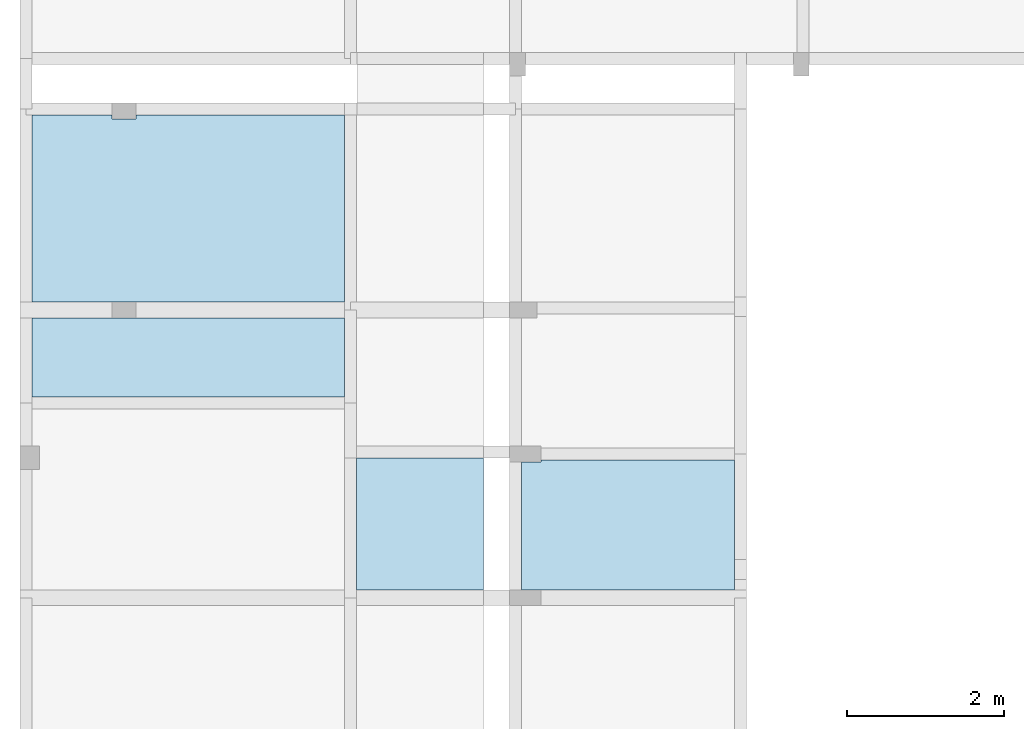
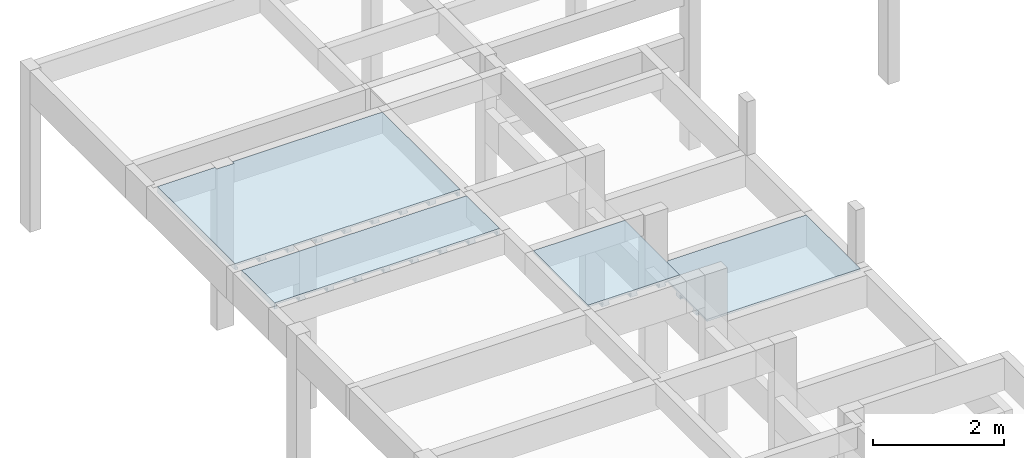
# One storey, part 12 of 21: 4 slabs.
"""IFC4 building model written with IfcOpenShell, lengths in centimetres."""

from ifc_helpers import new_model, si_unit, derived_unit, frame, origin_with_axes, place, context, project, spatial, polyline, outline, extrude, faceted_brep, material, element, save


model = new_model("IFC4")

# Units and contexts
model_context = context("Model", 3, precision=1e-05, world=origin_with_axes(), identifier="Body")
ifc_project = project(units=[si_unit("LENGTHUNIT", "METRE", prefix="CENTI"), si_unit("VOLUMEUNIT", "CUBIC_METRE"), si_unit("AREAUNIT", "SQUARE_METRE"), si_unit("POWERUNIT", "WATT"), si_unit("LUMINOUSFLUXUNIT", "LUMEN"), si_unit("ELECTRICCURRENTUNIT", "AMPERE"), si_unit("PRESSUREUNIT", "PASCAL", prefix="KILO"), si_unit("MASSUNIT", "GRAM", prefix="KILO"), si_unit("PLANEANGLEUNIT", "RADIAN"), derived_unit("VOLUMETRICFLOWRATEUNIT", [(si_unit("LENGTHUNIT", "METRE"), 3), (si_unit("TIMEUNIT", "SECOND"), -1)])], contexts=[model_context])

# Site, building, storey
site_placement = place(None, origin_with_axes())
site = spatial("IfcSite", under=ifc_project, at=site_placement)
building_placement = place(site_placement, frame((0.0, 0.0, -295.0)))
building = spatial("IfcBuilding", under=site, at=building_placement)
placement_1 = place(building_placement, origin_with_axes())
placement_2 = place(placement_1, frame((0.0, 0.0, 101.0), z_axis=(0.0, 0.0, 1.0), x_axis=(1.0, 0.0, 0.0)))
placement_3 = place(placement_2, frame((0.0, 0.0, 204.0), z_axis=(0.0, 0.0, 1.0), x_axis=(1.0, 0.0, 0.0)))
placement_4 = place(placement_3, frame((0.0, 0.0, 292.0), z_axis=(0.0, 0.0, 1.0), x_axis=(1.0, 0.0, 0.0)))
storey_placement = place(placement_4, frame((0.0, 0.0, 302.0), z_axis=(0.0, 0.0, 1.0), x_axis=(1.0, 0.0, 0.0)))
storey = spatial("IfcBuildingStorey", under=building, at=storey_placement, Name="PAVTO 02", CompositionType="ELEMENT", Elevation=604.0)

# Slabs
ifc_material = material(Name="Concreto")
slab_1_placement = place(storey_placement, frame((765.4, -5618.0, 0.0), z_axis=(0.0, 0.0, 1.0), x_axis=(1.0, 0.0, 0.0)))
element("IfcSlab", 1, at=slab_1_placement, inside=storey, material=ifc_material, Name="L213", PredefinedType="FLOOR", context=model_context, shape_type="SolidModel", body=[
    extrude(outline(polyline([(198.669, 118.84), (-66.469, 118.84), (-66.47, 113.84), (-96.47, 113.84), (-96.469, 118.839), (-198.67, 118.84), (-198.669, -118.839), (198.67, -118.84), (198.669, 118.84), (198.669, 118.84)])), frame((0.0, 0.0, -4.0), z_axis=(0.0, 0.0, 1.0), x_axis=(1.0, 0.0, 0.0)), (0.0, 0.0, 1.0), 4.0),
    faceted_brep([(-5.0, -118.83950461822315, -12.0), (-5.0, 118.83999538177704, -12.0), (5.0, 118.83999538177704, -12.0), (5.0, -118.83950461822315, -12.0), (5.0, -118.83950461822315, -4.0), (5.0, 118.83999538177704, -4.0), (-5.0, 118.83999538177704, -4.0), (-5.0, -118.83950461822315, -4.0)], [[[0, 1, 2, 3]], [[4, 5, 6, 7]], [[4, 3, 5]], [[3, 2, 5]], [[5, 2, 6]], [[2, 1, 6]], [[6, 1, 7]], [[1, 0, 7]], [[7, 0, 4]], [[0, 3, 4]]]),
    faceted_brep([(-6.5, -118.83950461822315, -12.0), (-6.5, 118.83999538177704, -12.0), (-5.0, 118.83999538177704, -12.0), (-5.0, -118.83950461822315, -12.0), (-5.0, -118.83950461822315, -9.0), (-5.0, 118.83999538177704, -9.0), (-6.5, 118.83999538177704, -9.0), (-6.5, -118.83950461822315, -9.0)], [[[0, 1, 2, 3]], [[4, 5, 6, 7]], [[4, 3, 5]], [[3, 2, 5]], [[5, 2, 6]], [[2, 1, 6]], [[6, 1, 7]], [[1, 0, 7]], [[7, 0, 4]], [[0, 3, 4]]]),
    faceted_brep([(5.0, -118.83950461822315, -12.0), (5.0, 118.83999538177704, -12.0), (6.5, 118.83999538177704, -12.0), (6.5, -118.83950461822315, -12.0), (6.5, -118.83950461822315, -9.0), (6.5, 118.83999538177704, -9.0), (5.0, 118.83999538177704, -9.0), (5.0, -118.83950461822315, -9.0)], [[[0, 1, 2, 3]], [[4, 5, 6, 7]], [[4, 3, 5]], [[3, 2, 5]], [[5, 2, 6]], [[2, 1, 6]], [[6, 1, 7]], [[1, 0, 7]], [[7, 0, 4]], [[0, 3, 4]]]),
    faceted_brep([(-55.0, -118.83950461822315, -12.0), (-55.0, 118.83999538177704, -12.0), (-45.0, 118.83999538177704, -12.0), (-45.0, -118.83950461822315, -12.0), (-45.0, -118.83950461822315, -4.0), (-45.0, 118.83999538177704, -4.0), (-55.0, 118.83999538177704, -4.0), (-55.0, -118.83950461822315, -4.0)], [[[0, 1, 2, 3]], [[4, 5, 6, 7]], [[4, 3, 5]], [[3, 2, 5]], [[5, 2, 6]], [[2, 1, 6]], [[6, 1, 7]], [[1, 0, 7]], [[7, 0, 4]], [[0, 3, 4]]]),
    faceted_brep([(-56.5, -118.83950461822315, -12.0), (-56.5, 118.83999538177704, -12.0), (-55.0, 118.83999538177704, -12.0), (-55.0, -118.83950461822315, -12.0), (-55.0, -118.83950461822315, -9.0), (-55.0, 118.83999538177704, -9.0), (-56.5, 118.83999538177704, -9.0), (-56.5, -118.83950461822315, -9.0)], [[[0, 1, 2, 3]], [[4, 5, 6, 7]], [[4, 3, 5]], [[3, 2, 5]], [[5, 2, 6]], [[2, 1, 6]], [[6, 1, 7]], [[1, 0, 7]], [[7, 0, 4]], [[0, 3, 4]]]),
    faceted_brep([(-45.0, -118.83950461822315, -12.0), (-45.0, 118.83999538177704, -12.0), (-43.5, 118.83999538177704, -12.0), (-43.5, -118.83950461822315, -12.0), (-43.5, -118.83950461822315, -9.0), (-43.5, 118.83999538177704, -9.0), (-45.0, 118.83999538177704, -9.0), (-45.0, -118.83950461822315, -9.0)], [[[0, 1, 2, 3]], [[4, 5, 6, 7]], [[4, 3, 5]], [[3, 2, 5]], [[5, 2, 6]], [[2, 1, 6]], [[6, 1, 7]], [[1, 0, 7]], [[7, 0, 4]], [[0, 3, 4]]]),
    faceted_brep([(-105.0, -118.83950461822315, -12.0), (-105.0, 118.83949538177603, -12.0), (-95.0, 113.83999538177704, -12.0), (-95.0, -118.83950461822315, -12.0), (-95.0, -118.83950461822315, -4.0), (-95.0, 113.83999538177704, -4.0), (-105.0, 118.83949538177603, -4.0), (-105.0, -118.83950461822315, -4.0)], [[[0, 1, 2, 3]], [[4, 5, 6, 7]], [[4, 3, 5]], [[3, 2, 5]], [[5, 2, 6]], [[2, 1, 6]], [[6, 1, 7]], [[1, 0, 7]], [[7, 0, 4]], [[0, 3, 4]]]),
    faceted_brep([(-106.5, -118.83950461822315, -12.0), (-106.5, 118.83949538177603, -12.0), (-105.0, 118.83949538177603, -12.0), (-105.0, -118.83950461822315, -12.0), (-105.0, -118.83950461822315, -9.0), (-105.0, 118.83949538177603, -9.0), (-106.5, 118.83949538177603, -9.0), (-106.5, -118.83950461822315, -9.0)], [[[0, 1, 2, 3]], [[4, 5, 6, 7]], [[4, 3, 5]], [[3, 2, 5]], [[5, 2, 6]], [[2, 1, 6]], [[6, 1, 7]], [[1, 0, 7]], [[7, 0, 4]], [[0, 3, 4]]]),
    faceted_brep([(-95.0, -118.83950461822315, -12.0), (-95.0, 113.83999538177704, -12.0), (-93.5, 113.83999538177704, -12.0), (-93.5, -118.83950461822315, -12.0), (-93.5, -118.83950461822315, -9.0), (-93.5, 113.83999538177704, -9.0), (-95.0, 113.83999538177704, -9.0), (-95.0, -118.83950461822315, -9.0)], [[[0, 1, 2, 3]], [[4, 5, 6, 7]], [[4, 3, 5]], [[3, 2, 5]], [[5, 2, 6]], [[2, 1, 6]], [[6, 1, 7]], [[1, 0, 7]], [[7, 0, 4]], [[0, 3, 4]]]),
    faceted_brep([(-155.0, -118.83950461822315, -12.0), (-155.0, 118.83949538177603, -12.0), (-145.0, 118.83949538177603, -12.0), (-145.0, -118.83950461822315, -12.0), (-145.0, -118.83950461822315, -4.0), (-145.0, 118.83949538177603, -4.0), (-155.0, 118.83949538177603, -4.0), (-155.0, -118.83950461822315, -4.0)], [[[0, 1, 2, 3]], [[4, 5, 6, 7]], [[4, 3, 5]], [[3, 2, 5]], [[5, 2, 6]], [[2, 1, 6]], [[6, 1, 7]], [[1, 0, 7]], [[7, 0, 4]], [[0, 3, 4]]]),
    faceted_brep([(-156.5, -118.83950461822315, -12.0), (-156.5, 118.83949538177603, -12.0), (-155.0, 118.83949538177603, -12.0), (-155.0, -118.83950461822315, -12.0), (-155.0, -118.83950461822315, -9.0), (-155.0, 118.83949538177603, -9.0), (-156.5, 118.83949538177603, -9.0), (-156.5, -118.83950461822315, -9.0)], [[[0, 1, 2, 3]], [[4, 5, 6, 7]], [[4, 3, 5]], [[3, 2, 5]], [[5, 2, 6]], [[2, 1, 6]], [[6, 1, 7]], [[1, 0, 7]], [[7, 0, 4]], [[0, 3, 4]]]),
    faceted_brep([(-145.0, -118.83950461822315, -12.0), (-145.0, 118.83949538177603, -12.0), (-143.5, 118.83949538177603, -12.0), (-143.5, -118.83950461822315, -12.0), (-143.5, -118.83950461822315, -9.0), (-143.5, 118.83949538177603, -9.0), (-145.0, 118.83949538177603, -9.0), (-145.0, -118.83950461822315, -9.0)], [[[0, 1, 2, 3]], [[4, 5, 6, 7]], [[4, 3, 5]], [[3, 2, 5]], [[5, 2, 6]], [[2, 1, 6]], [[6, 1, 7]], [[1, 0, 7]], [[7, 0, 4]], [[0, 3, 4]]]),
    faceted_brep([(-198.6695, -118.83901385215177, -12.0), (-198.6695, 118.83995947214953, -12.0), (-195.0, 118.83949538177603, -12.0), (-195.0, -118.83950461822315, -12.0), (-195.0, -118.83950461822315, -4.0), (-195.0, 118.83949538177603, -4.0), (-198.6695, 118.83995947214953, -4.0), (-198.6695, -118.83901385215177, -4.0)], [[[0, 1, 2, 3]], [[4, 5, 6, 7]], [[4, 3, 5]], [[3, 2, 5]], [[5, 2, 6]], [[2, 1, 6]], [[6, 1, 7]], [[1, 0, 7]], [[7, 0, 4]], [[0, 3, 4]]]),
    faceted_brep([(-195.0, -118.83950461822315, -12.0), (-195.0, 118.83949538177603, -12.0), (-193.5, 118.83949538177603, -12.0), (-193.5, -118.83950461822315, -12.0), (-193.5, -118.83950461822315, -9.0), (-193.5, 118.83949538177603, -9.0), (-195.0, 118.83949538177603, -9.0), (-195.0, -118.83950461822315, -9.0)], [[[0, 1, 2, 3]], [[4, 5, 6, 7]], [[4, 3, 5]], [[3, 2, 5]], [[5, 2, 6]], [[2, 1, 6]], [[6, 1, 7]], [[1, 0, 7]], [[7, 0, 4]], [[0, 3, 4]]]),
    faceted_brep([(45.0, -118.83950461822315, -12.0), (45.0, 118.83999538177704, -12.0), (55.0, 118.83999538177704, -12.0), (55.0, -118.83950461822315, -12.0), (55.0, -118.83950461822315, -4.0), (55.0, 118.83999538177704, -4.0), (45.0, 118.83999538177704, -4.0), (45.0, -118.83950461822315, -4.0)], [[[0, 1, 2, 3]], [[4, 5, 6, 7]], [[4, 3, 5]], [[3, 2, 5]], [[5, 2, 6]], [[2, 1, 6]], [[6, 1, 7]], [[1, 0, 7]], [[7, 0, 4]], [[0, 3, 4]]]),
    faceted_brep([(43.5, -118.83950461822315, -12.0), (43.5, 118.83999538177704, -12.0), (45.0, 118.83999538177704, -12.0), (45.0, -118.83950461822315, -12.0), (45.0, -118.83950461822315, -9.0), (45.0, 118.83999538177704, -9.0), (43.5, 118.83999538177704, -9.0), (43.5, -118.83950461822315, -9.0)], [[[0, 1, 2, 3]], [[4, 5, 6, 7]], [[4, 3, 5]], [[3, 2, 5]], [[5, 2, 6]], [[2, 1, 6]], [[6, 1, 7]], [[1, 0, 7]], [[7, 0, 4]], [[0, 3, 4]]]),
    faceted_brep([(55.0, -118.83950461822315, -12.0), (55.0, 118.83999538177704, -12.0), (56.5, 118.83999538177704, -12.0), (56.5, -118.83950461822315, -12.0), (56.5, -118.83950461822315, -9.0), (56.5, 118.83999538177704, -9.0), (55.0, 118.83999538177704, -9.0), (55.0, -118.83950461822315, -9.0)], [[[0, 1, 2, 3]], [[4, 5, 6, 7]], [[4, 3, 5]], [[3, 2, 5]], [[5, 2, 6]], [[2, 1, 6]], [[6, 1, 7]], [[1, 0, 7]], [[7, 0, 4]], [[0, 3, 4]]]),
    faceted_brep([(95.0, -118.83950461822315, -12.0), (95.0, 118.83999538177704, -12.0), (105.0, 118.83999538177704, -12.0), (105.0, -118.83950461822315, -12.0), (105.0, -118.83950461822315, -4.0), (105.0, 118.83999538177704, -4.0), (95.0, 118.83999538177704, -4.0), (95.0, -118.83950461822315, -4.0)], [[[0, 1, 2, 3]], [[4, 5, 6, 7]], [[4, 3, 5]], [[3, 2, 5]], [[5, 2, 6]], [[2, 1, 6]], [[6, 1, 7]], [[1, 0, 7]], [[7, 0, 4]], [[0, 3, 4]]]),
    faceted_brep([(93.5, -118.83950461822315, -12.0), (93.5, 118.83999538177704, -12.0), (95.0, 118.83999538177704, -12.0), (95.0, -118.83950461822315, -12.0), (95.0, -118.83950461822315, -9.0), (95.0, 118.83999538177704, -9.0), (93.5, 118.83999538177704, -9.0), (93.5, -118.83950461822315, -9.0)], [[[0, 1, 2, 3]], [[4, 5, 6, 7]], [[4, 3, 5]], [[3, 2, 5]], [[5, 2, 6]], [[2, 1, 6]], [[6, 1, 7]], [[1, 0, 7]], [[7, 0, 4]], [[0, 3, 4]]]),
    faceted_brep([(105.0, -118.83950461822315, -12.0), (105.0, 118.83999538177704, -12.0), (106.5, 118.83999538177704, -12.0), (106.5, -118.83950461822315, -12.0), (106.5, -118.83950461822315, -9.0), (106.5, 118.83999538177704, -9.0), (105.0, 118.83999538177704, -9.0), (105.0, -118.83950461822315, -9.0)], [[[0, 1, 2, 3]], [[4, 5, 6, 7]], [[4, 3, 5]], [[3, 2, 5]], [[5, 2, 6]], [[2, 1, 6]], [[6, 1, 7]], [[1, 0, 7]], [[7, 0, 4]], [[0, 3, 4]]]),
    faceted_brep([(145.0, -118.83950461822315, -12.0), (145.0, 118.83999538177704, -12.0), (155.0, 118.83999538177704, -12.0), (155.0, -118.83950461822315, -12.0), (155.0, -118.83950461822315, -4.0), (155.0, 118.83999538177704, -4.0), (145.0, 118.83999538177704, -4.0), (145.0, -118.83950461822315, -4.0)], [[[0, 1, 2, 3]], [[4, 5, 6, 7]], [[4, 3, 5]], [[3, 2, 5]], [[5, 2, 6]], [[2, 1, 6]], [[6, 1, 7]], [[1, 0, 7]], [[7, 0, 4]], [[0, 3, 4]]]),
    faceted_brep([(143.5, -118.83950461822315, -12.0), (143.5, 118.83999538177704, -12.0), (145.0, 118.83999538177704, -12.0), (145.0, -118.83950461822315, -12.0), (145.0, -118.83950461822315, -9.0), (145.0, 118.83999538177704, -9.0), (143.5, 118.83999538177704, -9.0), (143.5, -118.83950461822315, -9.0)], [[[0, 1, 2, 3]], [[4, 5, 6, 7]], [[4, 3, 5]], [[3, 2, 5]], [[5, 2, 6]], [[2, 1, 6]], [[6, 1, 7]], [[1, 0, 7]], [[7, 0, 4]], [[0, 3, 4]]]),
    faceted_brep([(155.0, -118.83950461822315, -12.0), (155.0, 118.83999538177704, -12.0), (156.5, 118.83999538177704, -12.0), (156.5, -118.83950461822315, -12.0), (156.5, -118.83950461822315, -9.0), (156.5, 118.83999538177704, -9.0), (155.0, 118.83999538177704, -9.0), (155.0, -118.83950461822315, -9.0)], [[[0, 1, 2, 3]], [[4, 5, 6, 7]], [[4, 3, 5]], [[3, 2, 5]], [[5, 2, 6]], [[2, 1, 6]], [[6, 1, 7]], [[1, 0, 7]], [[7, 0, 4]], [[0, 3, 4]]]),
    faceted_brep([(195.0, -118.83950461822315, -12.0), (195.0, 118.83999538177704, -12.0), (198.6695, 118.83999538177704, -12.0), (198.6695, -118.83999538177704, -12.0), (198.6695, -118.83999538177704, -4.0), (198.6695, 118.83999538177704, -4.0), (195.0, 118.83999538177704, -4.0), (195.0, -118.83950461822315, -4.0)], [[[0, 1, 2, 3]], [[4, 5, 6, 7]], [[4, 3, 5]], [[3, 2, 5]], [[5, 2, 6]], [[2, 1, 6]], [[6, 1, 7]], [[1, 0, 7]], [[7, 0, 4]], [[0, 3, 4]]]),
    faceted_brep([(193.5, -118.83950461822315, -12.0), (193.5, 118.83999538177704, -12.0), (195.0, 118.83999538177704, -12.0), (195.0, -118.83950461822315, -12.0), (195.0, -118.83950461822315, -9.0), (195.0, 118.83999538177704, -9.0), (193.5, 118.83999538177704, -9.0), (193.5, -118.83950461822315, -9.0)], [[[0, 1, 2, 3]], [[4, 5, 6, 7]], [[4, 3, 5]], [[3, 2, 5]], [[5, 2, 6]], [[2, 1, 6]], [[6, 1, 7]], [[1, 0, 7]], [[7, 0, 4]], [[0, 3, 4]]]),
])
slab_2_placement = place(storey_placement, frame((765.4, -5807.194504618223, 0.0), z_axis=(0.0, 0.0, 1.0), x_axis=(1.0, 0.0, 0.0)))
element("IfcSlab", 2, at=slab_2_placement, inside=storey, material=ifc_material, Name="L217", PredefinedType="FLOOR", context=model_context, shape_type="SolidModel", body=[
    extrude(outline(polyline([(198.67, 50.355), (-198.669, 50.354), (-198.67, -50.354), (198.67, -50.354), (198.67, 50.355), (198.67, 50.355)])), frame((0.0, -0.000495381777, -4.0), z_axis=(0.0, 0.0, 1.0), x_axis=(1.0, 0.0, 0.0)), (0.0, 0.0, 1.0), 4.0),
    faceted_brep([(-5.0, -50.35449538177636, -12.0), (-5.0, 50.35400461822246, -12.0), (5.0, 50.35400461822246, -12.0), (5.0, -50.35449538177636, -12.0), (5.0, -50.35449538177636, -4.0), (5.0, 50.35400461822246, -4.0), (-5.0, 50.35400461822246, -4.0), (-5.0, -50.35449538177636, -4.0)], [[[0, 1, 2, 3]], [[4, 5, 6, 7]], [[4, 3, 5]], [[3, 2, 5]], [[5, 2, 6]], [[2, 1, 6]], [[6, 1, 7]], [[1, 0, 7]], [[7, 0, 4]], [[0, 3, 4]]]),
    faceted_brep([(-6.5, -50.35449538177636, -12.0), (-6.5, 50.35400461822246, -12.0), (-5.0, 50.35400461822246, -12.0), (-5.0, -50.35449538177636, -12.0), (-5.0, -50.35449538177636, -9.0), (-5.0, 50.35400461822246, -9.0), (-6.5, 50.35400461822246, -9.0), (-6.5, -50.35449538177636, -9.0)], [[[0, 1, 2, 3]], [[4, 5, 6, 7]], [[4, 3, 5]], [[3, 2, 5]], [[5, 2, 6]], [[2, 1, 6]], [[6, 1, 7]], [[1, 0, 7]], [[7, 0, 4]], [[0, 3, 4]]]),
    faceted_brep([(5.0, -50.35449538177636, -12.0), (5.0, 50.35400461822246, -12.0), (6.5, 50.35400461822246, -12.0), (6.5, -50.35449538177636, -12.0), (6.5, -50.35449538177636, -9.0), (6.5, 50.35400461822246, -9.0), (5.0, 50.35400461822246, -9.0), (5.0, -50.35449538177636, -9.0)], [[[0, 1, 2, 3]], [[4, 5, 6, 7]], [[4, 3, 5]], [[3, 2, 5]], [[5, 2, 6]], [[2, 1, 6]], [[6, 1, 7]], [[1, 0, 7]], [[7, 0, 4]], [[0, 3, 4]]]),
    faceted_brep([(-55.0, -50.35449538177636, -12.0), (-55.0, 50.35400461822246, -12.0), (-45.0, 50.35400461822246, -12.0), (-45.0, -50.35449538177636, -12.0), (-45.0, -50.35449538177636, -4.0), (-45.0, 50.35400461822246, -4.0), (-55.0, 50.35400461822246, -4.0), (-55.0, -50.35449538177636, -4.0)], [[[0, 1, 2, 3]], [[4, 5, 6, 7]], [[4, 3, 5]], [[3, 2, 5]], [[5, 2, 6]], [[2, 1, 6]], [[6, 1, 7]], [[1, 0, 7]], [[7, 0, 4]], [[0, 3, 4]]]),
    faceted_brep([(-56.5, -50.35449538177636, -12.0), (-56.5, 50.35400461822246, -12.0), (-55.0, 50.35400461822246, -12.0), (-55.0, -50.35449538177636, -12.0), (-55.0, -50.35449538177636, -9.0), (-55.0, 50.35400461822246, -9.0), (-56.5, 50.35400461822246, -9.0), (-56.5, -50.35449538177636, -9.0)], [[[0, 1, 2, 3]], [[4, 5, 6, 7]], [[4, 3, 5]], [[3, 2, 5]], [[5, 2, 6]], [[2, 1, 6]], [[6, 1, 7]], [[1, 0, 7]], [[7, 0, 4]], [[0, 3, 4]]]),
    faceted_brep([(-45.0, -50.35449538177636, -12.0), (-45.0, 50.35400461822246, -12.0), (-43.5, 50.35400461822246, -12.0), (-43.5, -50.35449538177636, -12.0), (-43.5, -50.35449538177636, -9.0), (-43.5, 50.35400461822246, -9.0), (-45.0, 50.35400461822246, -9.0), (-45.0, -50.35449538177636, -9.0)], [[[0, 1, 2, 3]], [[4, 5, 6, 7]], [[4, 3, 5]], [[3, 2, 5]], [[5, 2, 6]], [[2, 1, 6]], [[6, 1, 7]], [[1, 0, 7]], [[7, 0, 4]], [[0, 3, 4]]]),
    faceted_brep([(-105.0, -50.35449538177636, -12.0), (-105.0, 50.35400461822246, -12.0), (-95.0, 50.35400461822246, -12.0), (-95.0, -50.35449538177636, -12.0), (-95.0, -50.35449538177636, -4.0), (-95.0, 50.35400461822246, -4.0), (-105.0, 50.35400461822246, -4.0), (-105.0, -50.35449538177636, -4.0)], [[[0, 1, 2, 3]], [[4, 5, 6, 7]], [[4, 3, 5]], [[3, 2, 5]], [[5, 2, 6]], [[2, 1, 6]], [[6, 1, 7]], [[1, 0, 7]], [[7, 0, 4]], [[0, 3, 4]]]),
    faceted_brep([(-106.5, -50.35449538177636, -12.0), (-106.5, 50.35400461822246, -12.0), (-105.0, 50.35400461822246, -12.0), (-105.0, -50.35449538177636, -12.0), (-105.0, -50.35449538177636, -9.0), (-105.0, 50.35400461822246, -9.0), (-106.5, 50.35400461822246, -9.0), (-106.5, -50.35449538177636, -9.0)], [[[0, 1, 2, 3]], [[4, 5, 6, 7]], [[4, 3, 5]], [[3, 2, 5]], [[5, 2, 6]], [[2, 1, 6]], [[6, 1, 7]], [[1, 0, 7]], [[7, 0, 4]], [[0, 3, 4]]]),
    faceted_brep([(-95.0, -50.35449538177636, -12.0), (-95.0, 50.35400461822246, -12.0), (-93.5, 50.35400461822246, -12.0), (-93.5, -50.35449538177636, -12.0), (-93.5, -50.35449538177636, -9.0), (-93.5, 50.35400461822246, -9.0), (-95.0, 50.35400461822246, -9.0), (-95.0, -50.35449538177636, -9.0)], [[[0, 1, 2, 3]], [[4, 5, 6, 7]], [[4, 3, 5]], [[3, 2, 5]], [[5, 2, 6]], [[2, 1, 6]], [[6, 1, 7]], [[1, 0, 7]], [[7, 0, 4]], [[0, 3, 4]]]),
    faceted_brep([(-155.0, -50.35449538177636, -12.0), (-155.0, 50.35400461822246, -12.0), (-145.0, 50.35400461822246, -12.0), (-145.0, -50.35449538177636, -12.0), (-145.0, -50.35449538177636, -4.0), (-145.0, 50.35400461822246, -4.0), (-155.0, 50.35400461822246, -4.0), (-155.0, -50.35449538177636, -4.0)], [[[0, 1, 2, 3]], [[4, 5, 6, 7]], [[4, 3, 5]], [[3, 2, 5]], [[5, 2, 6]], [[2, 1, 6]], [[6, 1, 7]], [[1, 0, 7]], [[7, 0, 4]], [[0, 3, 4]]]),
    faceted_brep([(-156.5, -50.35449538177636, -12.0), (-156.5, 50.35400461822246, -12.0), (-155.0, 50.35400461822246, -12.0), (-155.0, -50.35449538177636, -12.0), (-155.0, -50.35449538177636, -9.0), (-155.0, 50.35400461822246, -9.0), (-156.5, 50.35400461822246, -9.0), (-156.5, -50.35449538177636, -9.0)], [[[0, 1, 2, 3]], [[4, 5, 6, 7]], [[4, 3, 5]], [[3, 2, 5]], [[5, 2, 6]], [[2, 1, 6]], [[6, 1, 7]], [[1, 0, 7]], [[7, 0, 4]], [[0, 3, 4]]]),
    faceted_brep([(-145.0, -50.35449538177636, -12.0), (-145.0, 50.35400461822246, -12.0), (-143.5, 50.35400461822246, -12.0), (-143.5, -50.35449538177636, -12.0), (-143.5, -50.35449538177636, -9.0), (-143.5, 50.35400461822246, -9.0), (-145.0, 50.35400461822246, -9.0), (-145.0, -50.35449538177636, -9.0)], [[[0, 1, 2, 3]], [[4, 5, 6, 7]], [[4, 3, 5]], [[3, 2, 5]], [[5, 2, 6]], [[2, 1, 6]], [[6, 1, 7]], [[1, 0, 7]], [[7, 0, 4]], [[0, 3, 4]]]),
    faceted_brep([(-198.6695, -50.35449538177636, -12.0), (-198.6695, 50.35351385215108, -12.0), (-195.0, 50.35400461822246, -12.0), (-195.0, -50.35449538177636, -12.0), (-195.0, -50.35449538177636, -4.0), (-195.0, 50.35400461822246, -4.0), (-198.6695, 50.35351385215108, -4.0), (-198.6695, -50.35449538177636, -4.0)], [[[0, 1, 2, 3]], [[4, 5, 6, 7]], [[4, 3, 5]], [[3, 2, 5]], [[5, 2, 6]], [[2, 1, 6]], [[6, 1, 7]], [[1, 0, 7]], [[7, 0, 4]], [[0, 3, 4]]]),
    faceted_brep([(-195.0, -50.35449538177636, -12.0), (-195.0, 50.35400461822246, -12.0), (-193.5, 50.35400461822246, -12.0), (-193.5, -50.35449538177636, -12.0), (-193.5, -50.35449538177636, -9.0), (-193.5, 50.35400461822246, -9.0), (-195.0, 50.35400461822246, -9.0), (-195.0, -50.35449538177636, -9.0)], [[[0, 1, 2, 3]], [[4, 5, 6, 7]], [[4, 3, 5]], [[3, 2, 5]], [[5, 2, 6]], [[2, 1, 6]], [[6, 1, 7]], [[1, 0, 7]], [[7, 0, 4]], [[0, 3, 4]]]),
    faceted_brep([(45.0, -50.35449538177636, -12.0), (45.0, 50.35400461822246, -12.0), (55.0, 50.35400461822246, -12.0), (55.0, -50.35449538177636, -12.0), (55.0, -50.35449538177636, -4.0), (55.0, 50.35400461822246, -4.0), (45.0, 50.35400461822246, -4.0), (45.0, -50.35449538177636, -4.0)], [[[0, 1, 2, 3]], [[4, 5, 6, 7]], [[4, 3, 5]], [[3, 2, 5]], [[5, 2, 6]], [[2, 1, 6]], [[6, 1, 7]], [[1, 0, 7]], [[7, 0, 4]], [[0, 3, 4]]]),
    faceted_brep([(43.5, -50.35449538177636, -12.0), (43.5, 50.35400461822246, -12.0), (45.0, 50.35400461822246, -12.0), (45.0, -50.35449538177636, -12.0), (45.0, -50.35449538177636, -9.0), (45.0, 50.35400461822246, -9.0), (43.5, 50.35400461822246, -9.0), (43.5, -50.35449538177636, -9.0)], [[[0, 1, 2, 3]], [[4, 5, 6, 7]], [[4, 3, 5]], [[3, 2, 5]], [[5, 2, 6]], [[2, 1, 6]], [[6, 1, 7]], [[1, 0, 7]], [[7, 0, 4]], [[0, 3, 4]]]),
    faceted_brep([(55.0, -50.35449538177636, -12.0), (55.0, 50.35400461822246, -12.0), (56.5, 50.35400461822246, -12.0), (56.5, -50.35449538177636, -12.0), (56.5, -50.35449538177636, -9.0), (56.5, 50.35400461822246, -9.0), (55.0, 50.35400461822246, -9.0), (55.0, -50.35449538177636, -9.0)], [[[0, 1, 2, 3]], [[4, 5, 6, 7]], [[4, 3, 5]], [[3, 2, 5]], [[5, 2, 6]], [[2, 1, 6]], [[6, 1, 7]], [[1, 0, 7]], [[7, 0, 4]], [[0, 3, 4]]]),
    faceted_brep([(95.0, -50.35449538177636, -12.0), (95.0, 50.35400461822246, -12.0), (105.0, 50.35400461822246, -12.0), (105.0, -50.35449538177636, -12.0), (105.0, -50.35449538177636, -4.0), (105.0, 50.35400461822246, -4.0), (95.0, 50.35400461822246, -4.0), (95.0, -50.35449538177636, -4.0)], [[[0, 1, 2, 3]], [[4, 5, 6, 7]], [[4, 3, 5]], [[3, 2, 5]], [[5, 2, 6]], [[2, 1, 6]], [[6, 1, 7]], [[1, 0, 7]], [[7, 0, 4]], [[0, 3, 4]]]),
    faceted_brep([(93.5, -50.35449538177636, -12.0), (93.5, 50.35400461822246, -12.0), (95.0, 50.35400461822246, -12.0), (95.0, -50.35449538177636, -12.0), (95.0, -50.35449538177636, -9.0), (95.0, 50.35400461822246, -9.0), (93.5, 50.35400461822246, -9.0), (93.5, -50.35449538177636, -9.0)], [[[0, 1, 2, 3]], [[4, 5, 6, 7]], [[4, 3, 5]], [[3, 2, 5]], [[5, 2, 6]], [[2, 1, 6]], [[6, 1, 7]], [[1, 0, 7]], [[7, 0, 4]], [[0, 3, 4]]]),
    faceted_brep([(105.0, -50.35449538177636, -12.0), (105.0, 50.35400461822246, -12.0), (106.5, 50.35400461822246, -12.0), (106.5, -50.35449538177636, -12.0), (106.5, -50.35449538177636, -9.0), (106.5, 50.35400461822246, -9.0), (105.0, 50.35400461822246, -9.0), (105.0, -50.35449538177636, -9.0)], [[[0, 1, 2, 3]], [[4, 5, 6, 7]], [[4, 3, 5]], [[3, 2, 5]], [[5, 2, 6]], [[2, 1, 6]], [[6, 1, 7]], [[1, 0, 7]], [[7, 0, 4]], [[0, 3, 4]]]),
    faceted_brep([(145.0, -50.35449538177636, -12.0), (145.0, 50.35400461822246, -12.0), (155.0, 50.35400461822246, -12.0), (155.0, -50.35449538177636, -12.0), (155.0, -50.35449538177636, -4.0), (155.0, 50.35400461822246, -4.0), (145.0, 50.35400461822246, -4.0), (145.0, -50.35449538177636, -4.0)], [[[0, 1, 2, 3]], [[4, 5, 6, 7]], [[4, 3, 5]], [[3, 2, 5]], [[5, 2, 6]], [[2, 1, 6]], [[6, 1, 7]], [[1, 0, 7]], [[7, 0, 4]], [[0, 3, 4]]]),
    faceted_brep([(143.5, -50.35449538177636, -12.0), (143.5, 50.35400461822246, -12.0), (145.0, 50.35400461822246, -12.0), (145.0, -50.35449538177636, -12.0), (145.0, -50.35449538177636, -9.0), (145.0, 50.35400461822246, -9.0), (143.5, 50.35400461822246, -9.0), (143.5, -50.35449538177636, -9.0)], [[[0, 1, 2, 3]], [[4, 5, 6, 7]], [[4, 3, 5]], [[3, 2, 5]], [[5, 2, 6]], [[2, 1, 6]], [[6, 1, 7]], [[1, 0, 7]], [[7, 0, 4]], [[0, 3, 4]]]),
    faceted_brep([(155.0, -50.35449538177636, -12.0), (155.0, 50.35400461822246, -12.0), (156.5, 50.35400461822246, -12.0), (156.5, -50.35449538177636, -12.0), (156.5, -50.35449538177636, -9.0), (156.5, 50.35400461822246, -9.0), (155.0, 50.35400461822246, -9.0), (155.0, -50.35449538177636, -9.0)], [[[0, 1, 2, 3]], [[4, 5, 6, 7]], [[4, 3, 5]], [[3, 2, 5]], [[5, 2, 6]], [[2, 1, 6]], [[6, 1, 7]], [[1, 0, 7]], [[7, 0, 4]], [[0, 3, 4]]]),
    faceted_brep([(195.0, -50.35449538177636, -12.0), (195.0, 50.35400461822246, -12.0), (198.67, 50.35449538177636, -12.0), (198.67, -50.35449538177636, -12.0), (198.67, -50.35449538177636, -4.0), (198.67, 50.35449538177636, -4.0), (195.0, 50.35400461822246, -4.0), (195.0, -50.35449538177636, -4.0)], [[[0, 1, 2, 3]], [[4, 5, 6, 7]], [[4, 3, 5]], [[3, 2, 5]], [[5, 2, 6]], [[2, 1, 6]], [[6, 1, 7]], [[1, 0, 7]], [[7, 0, 4]], [[0, 3, 4]]]),
    faceted_brep([(193.5, -50.35449538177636, -12.0), (193.5, 50.35400461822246, -12.0), (195.0, 50.35400461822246, -12.0), (195.0, -50.35449538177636, -12.0), (195.0, -50.35449538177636, -9.0), (195.0, 50.35400461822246, -9.0), (193.5, 50.35400461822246, -9.0), (193.5, -50.35449538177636, -9.0)], [[[0, 1, 2, 3]], [[4, 5, 6, 7]], [[4, 3, 5]], [[3, 2, 5]], [[5, 2, 6]], [[2, 1, 6]], [[6, 1, 7]], [[1, 0, 7]], [[7, 0, 4]], [[0, 3, 4]]]),
])
slab_3_placement = place(storey_placement, frame((1059.9855, -6018.7755, 0.0), z_axis=(0.0, 0.0, 1.0), x_axis=(1.0, 0.0, 0.0)))
element("IfcSlab", 3, at=slab_3_placement, inside=storey, material=ifc_material, Name="L221", PredefinedType="FLOOR", context=model_context, shape_type="SolidModel", body=[
    extrude(outline(polyline([(80.915, -83.924), (80.915, 83.924), (-80.914, 83.924), (-80.914, -83.925), (80.915, -83.924), (80.915, -83.924)])), frame((-0.0005, 0.0005, -4.0), z_axis=(0.0, 0.0, 1.0), x_axis=(1.0, 0.0, 0.0)), (0.0, 0.0, 1.0), 4.0),
    faceted_brep([(-5.0005, -83.924, -12.0), (-5.0005, 83.9245, -12.0), (4.9995, 83.9245, -12.0), (4.9995, -83.924, -12.0), (4.9995, -83.924, -4.0), (4.9995, 83.9245, -4.0), (-5.0005, 83.9245, -4.0), (-5.0005, -83.924, -4.0)], [[[0, 1, 2, 3]], [[4, 5, 6, 7]], [[4, 3, 5]], [[3, 2, 5]], [[5, 2, 6]], [[2, 1, 6]], [[6, 1, 7]], [[1, 0, 7]], [[7, 0, 4]], [[0, 3, 4]]]),
    faceted_brep([(-6.5005, -83.924, -12.0), (-6.5005, 83.9245, -12.0), (-5.0005, 83.9245, -12.0), (-5.0005, -83.924, -12.0), (-5.0005, -83.924, -9.0), (-5.0005, 83.9245, -9.0), (-6.5005, 83.9245, -9.0), (-6.5005, -83.924, -9.0)], [[[0, 1, 2, 3]], [[4, 5, 6, 7]], [[4, 3, 5]], [[3, 2, 5]], [[5, 2, 6]], [[2, 1, 6]], [[6, 1, 7]], [[1, 0, 7]], [[7, 0, 4]], [[0, 3, 4]]]),
    faceted_brep([(4.9995, -83.924, -12.0), (4.9995, 83.9245, -12.0), (6.4995, 83.9245, -12.0), (6.4995, -83.924, -12.0), (6.4995, -83.924, -9.0), (6.4995, 83.9245, -9.0), (4.9995, 83.9245, -9.0), (4.9995, -83.924, -9.0)], [[[0, 1, 2, 3]], [[4, 5, 6, 7]], [[4, 3, 5]], [[3, 2, 5]], [[5, 2, 6]], [[2, 1, 6]], [[6, 1, 7]], [[1, 0, 7]], [[7, 0, 4]], [[0, 3, 4]]]),
    faceted_brep([(-55.0005, -83.924, -12.0), (-55.0005, 83.9245, -12.0), (-45.0005, 83.9245, -12.0), (-45.0005, -83.924, -12.0), (-45.0005, -83.924, -4.0), (-45.0005, 83.9245, -4.0), (-55.0005, 83.9245, -4.0), (-55.0005, -83.924, -4.0)], [[[0, 1, 2, 3]], [[4, 5, 6, 7]], [[4, 3, 5]], [[3, 2, 5]], [[5, 2, 6]], [[2, 1, 6]], [[6, 1, 7]], [[1, 0, 7]], [[7, 0, 4]], [[0, 3, 4]]]),
    faceted_brep([(-56.5005, -83.924, -12.0), (-56.5005, 83.9245, -12.0), (-55.0005, 83.9245, -12.0), (-55.0005, -83.924, -12.0), (-55.0005, -83.924, -9.0), (-55.0005, 83.9245, -9.0), (-56.5005, 83.9245, -9.0), (-56.5005, -83.924, -9.0)], [[[0, 1, 2, 3]], [[4, 5, 6, 7]], [[4, 3, 5]], [[3, 2, 5]], [[5, 2, 6]], [[2, 1, 6]], [[6, 1, 7]], [[1, 0, 7]], [[7, 0, 4]], [[0, 3, 4]]]),
    faceted_brep([(-45.0005, -83.924, -12.0), (-45.0005, 83.9245, -12.0), (-43.5005, 83.9245, -12.0), (-43.5005, -83.924, -12.0), (-43.5005, -83.924, -9.0), (-43.5005, 83.9245, -9.0), (-45.0005, 83.9245, -9.0), (-45.0005, -83.924, -9.0)], [[[0, 1, 2, 3]], [[4, 5, 6, 7]], [[4, 3, 5]], [[3, 2, 5]], [[5, 2, 6]], [[2, 1, 6]], [[6, 1, 7]], [[1, 0, 7]], [[7, 0, 4]], [[0, 3, 4]]]),
    faceted_brep([(44.9995, -83.924, -12.0), (44.9995, 83.9245, -12.0), (54.9995, 83.9245, -12.0), (54.9995, -83.924, -12.0), (54.9995, -83.924, -4.0), (54.9995, 83.9245, -4.0), (44.9995, 83.9245, -4.0), (44.9995, -83.924, -4.0)], [[[0, 1, 2, 3]], [[4, 5, 6, 7]], [[4, 3, 5]], [[3, 2, 5]], [[5, 2, 6]], [[2, 1, 6]], [[6, 1, 7]], [[1, 0, 7]], [[7, 0, 4]], [[0, 3, 4]]]),
    faceted_brep([(43.4995, -83.924, -12.0), (43.4995, 83.9245, -12.0), (44.9995, 83.9245, -12.0), (44.9995, -83.924, -12.0), (44.9995, -83.924, -9.0), (44.9995, 83.9245, -9.0), (43.4995, 83.9245, -9.0), (43.4995, -83.924, -9.0)], [[[0, 1, 2, 3]], [[4, 5, 6, 7]], [[4, 3, 5]], [[3, 2, 5]], [[5, 2, 6]], [[2, 1, 6]], [[6, 1, 7]], [[1, 0, 7]], [[7, 0, 4]], [[0, 3, 4]]]),
    faceted_brep([(54.9995, -83.924, -12.0), (54.9995, 83.9245, -12.0), (56.4995, 83.9245, -12.0), (56.4995, -83.924, -12.0), (56.4995, -83.924, -9.0), (56.4995, 83.9245, -9.0), (54.9995, 83.9245, -9.0), (54.9995, -83.924, -9.0)], [[[0, 1, 2, 3]], [[4, 5, 6, 7]], [[4, 3, 5]], [[3, 2, 5]], [[5, 2, 6]], [[2, 1, 6]], [[6, 1, 7]], [[1, 0, 7]], [[7, 0, 4]], [[0, 3, 4]]]),
])
slab_4_placement = place(storey_placement, frame((1324.4005, -6020.025, -100.0), z_axis=(0.0, 0.0, 1.0), x_axis=(1.0, 0.0, 0.0)))
element("IfcSlab", 4, at=slab_4_placement, inside=storey, material=ifc_material, Name="L248", PredefinedType="FLOOR", context=model_context, shape_type="SolidModel", body=[
    extrude(outline(polyline([(135.5, 82.675), (-110.5, 82.674), (-110.499, 80.174), (-135.499, 80.174), (-135.499, -82.675), (135.5, -82.675), (135.5, 82.675), (135.5, 82.675)])), frame((-0.0005, 0.0, -4.0), z_axis=(0.0, 0.0, 1.0), x_axis=(1.0, 0.0, 0.0)), (0.0, 0.0, 1.0), 4.0),
    faceted_brep([(-135.4995, -40.0, -12.0), (135.4995, -40.0, -12.0), (135.4995, -50.0, -12.0), (-135.4995, -50.0, -12.0), (-135.4995, -50.0, -4.0), (135.4995, -50.0, -4.0), (135.4995, -40.0, -4.0), (-135.4995, -40.0, -4.0)], [[[0, 1, 2, 3]], [[4, 5, 6, 7]], [[4, 3, 5]], [[3, 2, 5]], [[5, 2, 6]], [[2, 1, 6]], [[6, 1, 7]], [[1, 0, 7]], [[7, 0, 4]], [[0, 3, 4]]]),
    faceted_brep([(-135.4995, -38.5, -12.0), (135.4995, -38.5, -12.0), (135.4995, -40.0, -12.0), (-135.4995, -40.0, -12.0), (-135.4995, -40.0, -9.0), (135.4995, -40.0, -9.0), (135.4995, -38.5, -9.0), (-135.4995, -38.5, -9.0)], [[[0, 1, 2, 3]], [[4, 5, 6, 7]], [[4, 3, 5]], [[3, 2, 5]], [[5, 2, 6]], [[2, 1, 6]], [[6, 1, 7]], [[1, 0, 7]], [[7, 0, 4]], [[0, 3, 4]]]),
    faceted_brep([(-135.4995, -50.0, -12.0), (135.4995, -50.0, -12.0), (135.4995, -51.5, -12.0), (-135.4995, -51.5, -12.0), (-135.4995, -51.5, -9.0), (135.4995, -51.5, -9.0), (135.4995, -50.0, -9.0), (-135.4995, -50.0, -9.0)], [[[0, 1, 2, 3]], [[4, 5, 6, 7]], [[4, 3, 5]], [[3, 2, 5]], [[5, 2, 6]], [[2, 1, 6]], [[6, 1, 7]], [[1, 0, 7]], [[7, 0, 4]], [[0, 3, 4]]]),
    faceted_brep([(-135.4995, 10.0, -12.0), (135.4995, 10.0, -12.0), (135.4995, 0.0, -12.0), (-135.4995, 0.0, -12.0), (-135.4995, 0.0, -4.0), (135.4995, 0.0, -4.0), (135.4995, 10.0, -4.0), (-135.4995, 10.0, -4.0)], [[[0, 1, 2, 3]], [[4, 5, 6, 7]], [[4, 3, 5]], [[3, 2, 5]], [[5, 2, 6]], [[2, 1, 6]], [[6, 1, 7]], [[1, 0, 7]], [[7, 0, 4]], [[0, 3, 4]]]),
    faceted_brep([(-135.4995, 11.5, -12.0), (135.4995, 11.5, -12.0), (135.4995, 10.0, -12.0), (-135.4995, 10.0, -12.0), (-135.4995, 10.0, -9.0), (135.4995, 10.0, -9.0), (135.4995, 11.5, -9.0), (-135.4995, 11.5, -9.0)], [[[0, 1, 2, 3]], [[4, 5, 6, 7]], [[4, 3, 5]], [[3, 2, 5]], [[5, 2, 6]], [[2, 1, 6]], [[6, 1, 7]], [[1, 0, 7]], [[7, 0, 4]], [[0, 3, 4]]]),
    faceted_brep([(-135.4995, 0.0, -12.0), (135.4995, 0.0, -12.0), (135.4995, -1.5, -12.0), (-135.4995, -1.5, -12.0), (-135.4995, -1.5, -9.0), (135.4995, -1.5, -9.0), (135.4995, 0.0, -9.0), (-135.4995, 0.0, -9.0)], [[[0, 1, 2, 3]], [[4, 5, 6, 7]], [[4, 3, 5]], [[3, 2, 5]], [[5, 2, 6]], [[2, 1, 6]], [[6, 1, 7]], [[1, 0, 7]], [[7, 0, 4]], [[0, 3, 4]]]),
    faceted_brep([(-135.4995, 60.0, -12.0), (135.4995, 60.0, -12.0), (135.4995, 50.0, -12.0), (-135.4995, 50.0, -12.0), (-135.4995, 50.0, -4.0), (135.4995, 50.0, -4.0), (135.4995, 60.0, -4.0), (-135.4995, 60.0, -4.0)], [[[0, 1, 2, 3]], [[4, 5, 6, 7]], [[4, 3, 5]], [[3, 2, 5]], [[5, 2, 6]], [[2, 1, 6]], [[6, 1, 7]], [[1, 0, 7]], [[7, 0, 4]], [[0, 3, 4]]]),
    faceted_brep([(-135.4995, 61.5, -12.0), (135.4995, 61.5, -12.0), (135.4995, 60.0, -12.0), (-135.4995, 60.0, -12.0), (-135.4995, 60.0, -9.0), (135.4995, 60.0, -9.0), (135.4995, 61.5, -9.0), (-135.4995, 61.5, -9.0)], [[[0, 1, 2, 3]], [[4, 5, 6, 7]], [[4, 3, 5]], [[3, 2, 5]], [[5, 2, 6]], [[2, 1, 6]], [[6, 1, 7]], [[1, 0, 7]], [[7, 0, 4]], [[0, 3, 4]]]),
    faceted_brep([(-135.4995, 50.0, -12.0), (135.4995, 50.0, -12.0), (135.4995, 48.5, -12.0), (-135.4995, 48.5, -12.0), (-135.4995, 48.5, -9.0), (135.4995, 48.5, -9.0), (135.4995, 50.0, -9.0), (-135.4995, 50.0, -9.0)], [[[0, 1, 2, 3]], [[4, 5, 6, 7]], [[4, 3, 5]], [[3, 2, 5]], [[5, 2, 6]], [[2, 1, 6]], [[6, 1, 7]], [[1, 0, 7]], [[7, 0, 4]], [[0, 3, 4]]]),
])

save(model, "model.ifc")
